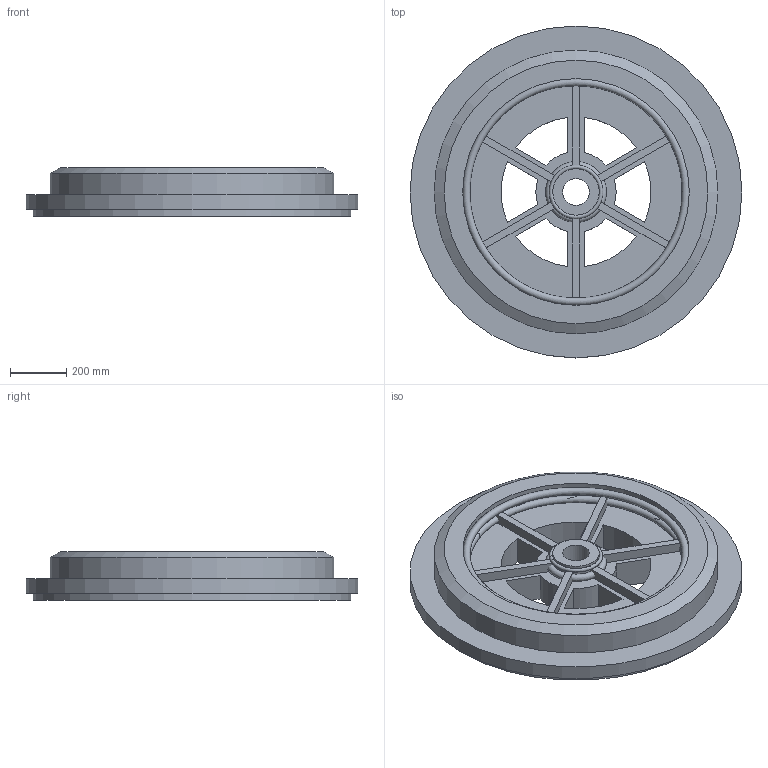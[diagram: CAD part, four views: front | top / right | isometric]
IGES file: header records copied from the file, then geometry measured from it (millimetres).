
Start section: DesignModeler IGES Output Version 5.3
Global section: file name: NoName; native system:  By UGS Corp.; preprocessor: XPlus GENERIC/IGES 3.0; author: aacton; organization:  ; date: 20110228.163244; units: metre
Bounding box: 1181.1 x 1181.1 x 173.04 mm (x, y, z)
Volume: 126871386.6 mm3; surface area: 5856244.1 mm2
Topology: 1 solids, 1 shells, 88 faces, 303 edges, 198 vertices
Faces by surface type: plane 43, torus 24, cylinder 20, cone 1
Full cylindrical faces by diameter (mm): 95.25 x1, 165.1 x1, 180.975 x1, 241.808 x1, 806.45 x1, 1009.65 x1, 1130.3 x1, 1181.1 x1
